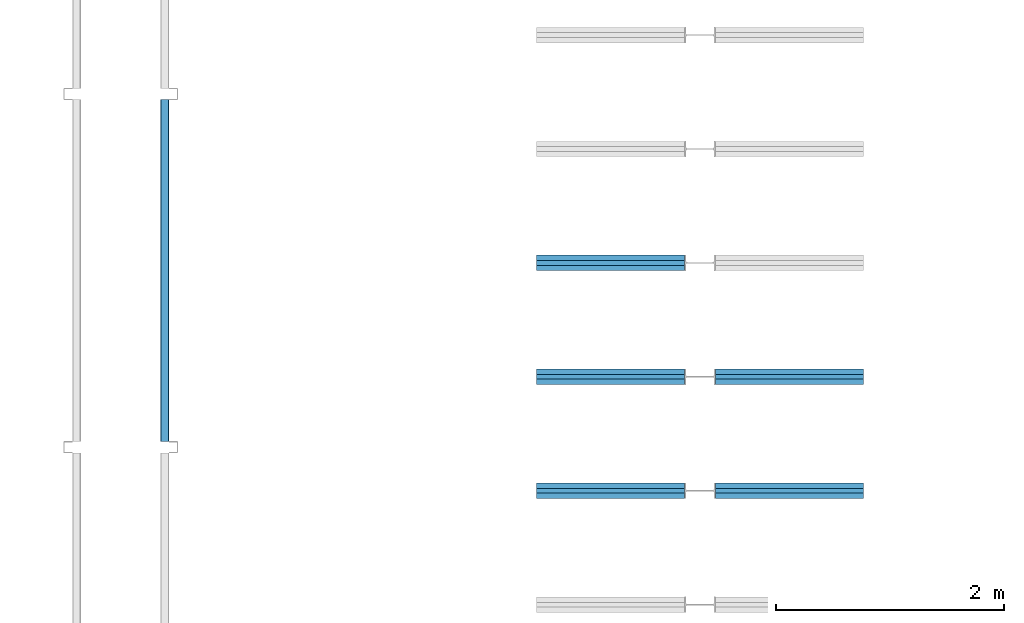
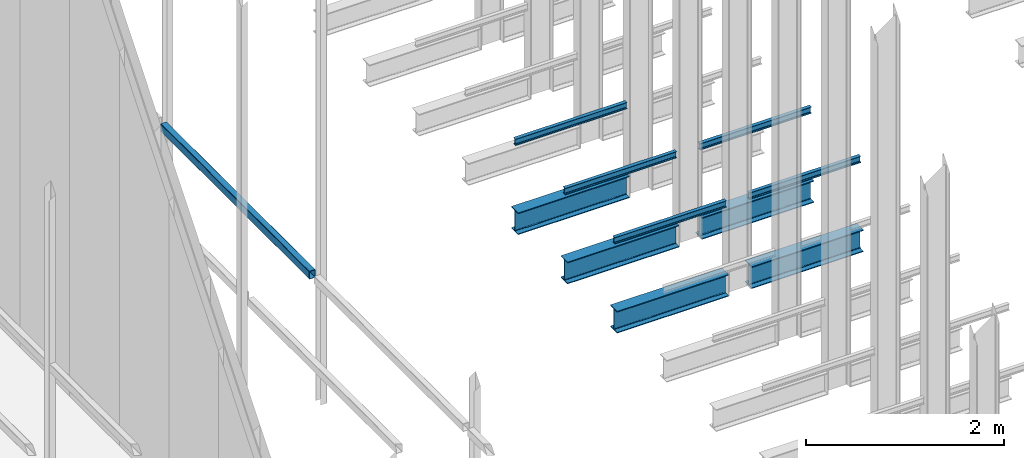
# One storey, part 167 of 302: 11 beams.
"""IFC2X3 building model written with IfcOpenShell, lengths in metres."""

from ifc_helpers import new_model, entity, si_unit, converted_unit, derived_unit, direction, frame, frame_2d, origin, place, context, subcontext, project, spatial, polyline, circle_curve, parameter, trimmed, segment, composite_curve, i_section, outline, extrude, material, type_object, element, save


model = new_model("IFC2X3")

# Units and contexts
model_context = context("Model", 3, precision=1e-05, world=origin(), true_north=direction((6.12303176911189e-17, 1.0)))
body_context = subcontext(model_context, "Body", "Model", "MODEL_VIEW")
ifc_project = project(units=[si_unit("LENGTHUNIT", "METRE"), si_unit("AREAUNIT", "SQUARE_METRE"), si_unit("VOLUMEUNIT", "CUBIC_METRE"), converted_unit("PLANEANGLEUNIT", "DEGREE", entity("IfcRatioMeasure", 0.0174532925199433), si_unit("PLANEANGLEUNIT", "RADIAN"), dimensions=[0, 0, 0, 0, 0, 0, 0]), si_unit("MASSUNIT", "GRAM", prefix="KILO"), derived_unit("MASSDENSITYUNIT", [(si_unit("MASSUNIT", "GRAM", prefix="KILO"), 1), (si_unit("LENGTHUNIT", "METRE"), -3)]), derived_unit("MOMENTOFINERTIAUNIT", [(si_unit("LENGTHUNIT", "METRE"), 4)]), si_unit("TIMEUNIT", "SECOND"), si_unit("FREQUENCYUNIT", "HERTZ"), si_unit("THERMODYNAMICTEMPERATUREUNIT", "DEGREE_CELSIUS"), derived_unit("THERMALTRANSMITTANCEUNIT", [(si_unit("MASSUNIT", "GRAM", prefix="KILO"), 1), (si_unit("THERMODYNAMICTEMPERATUREUNIT", "KELVIN"), -1), (si_unit("TIMEUNIT", "SECOND"), -3)]), derived_unit("VOLUMETRICFLOWRATEUNIT", [(si_unit("LENGTHUNIT", "METRE"), 3), (si_unit("TIMEUNIT", "SECOND"), -1)]), si_unit("ELECTRICCURRENTUNIT", "AMPERE"), si_unit("ELECTRICVOLTAGEUNIT", "VOLT"), si_unit("POWERUNIT", "WATT"), si_unit("FORCEUNIT", "NEWTON", prefix="KILO"), si_unit("ILLUMINANCEUNIT", "LUX"), si_unit("LUMINOUSFLUXUNIT", "LUMEN"), si_unit("LUMINOUSINTENSITYUNIT", "CANDELA"), derived_unit("USERDEFINED", [(si_unit("MASSUNIT", "GRAM", prefix="KILO"), -1), (si_unit("LENGTHUNIT", "METRE"), -2), (si_unit("TIMEUNIT", "SECOND"), 3), (si_unit("LUMINOUSFLUXUNIT", "LUMEN"), 1)]), derived_unit("LINEARVELOCITYUNIT", [(si_unit("LENGTHUNIT", "METRE"), 1), (si_unit("TIMEUNIT", "SECOND"), -1)]), si_unit("PRESSUREUNIT", "PASCAL"), derived_unit("USERDEFINED", [(si_unit("LENGTHUNIT", "METRE"), -2), (si_unit("MASSUNIT", "GRAM", prefix="KILO"), 1), (si_unit("TIMEUNIT", "SECOND"), -2)]), derived_unit("LINEARFORCEUNIT", [(si_unit("MASSUNIT", "GRAM", prefix="KILO"), 1), (si_unit("LENGTHUNIT", "METRE"), 1), (si_unit("TIMEUNIT", "SECOND"), -2), (si_unit("LENGTHUNIT", "METRE"), -1)]), derived_unit("PLANARFORCEUNIT", [(si_unit("MASSUNIT", "GRAM", prefix="KILO"), 1), (si_unit("LENGTHUNIT", "METRE"), 1), (si_unit("TIMEUNIT", "SECOND"), -2), (si_unit("LENGTHUNIT", "METRE"), -2)])], contexts=[model_context])

# Site, building, storey
site_placement = place(None, origin())
site = spatial("IfcSite", under=ifc_project, at=site_placement, Name="Default", CompositionType="ELEMENT")
building_placement = place(site_placement, origin())
building = spatial("IfcBuilding", under=site, at=building_placement, CompositionType="ELEMENT")
storey_placement = place(building_placement, frame((0.0, 0.0, -1.3)))
storey = spatial("IfcBuildingStorey", under=building, at=storey_placement, Name="00_EG", CompositionType="ELEMENT", Elevation=-1.3)

# Beams
ifc_material_1 = material(Name="Metall - Baustahl S235 blau")
beam_type_1 = type_object("IfcBeamType", Name="RHS Träger (EN 10219-2):RHS 100 x 75 x 5", PredefinedType="NOTDEFINED")
beam_1_placement = place(storey_placement, frame((-175.305111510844, 36.448088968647, 2.885), z_axis=(0.0, 0.0, 1.0), x_axis=(0.0, 1.0, 0.0)))
element("IfcBeam", 1, at=beam_1_placement, inside=storey, type_object=beam_type_1, material=ifc_material_1, Name="RHS Träger (EN 10219-2):RHS 100 x 75 x 5", ObjectType="RHS Träger (EN 10219-2):RHS 100 x 75 x 5", context=body_context, shape_type="SweptSolid", body=[
    extrude(outline(composite_curve([segment(trimmed(circle_curve(frame_2d((-0.0274999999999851, -0.0400000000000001), x_axis=(1.0, 0.0)), 0.01), [parameter(180.0)], [parameter(270.0)], True, "PARAMETER"), True, "CONTINUOUS"), segment(polyline([(-0.0274999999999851, -0.05), (0.0274999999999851, -0.05)]), True, "CONTINUOUS"), segment(trimmed(circle_curve(frame_2d((0.0274999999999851, -0.0400000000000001), x_axis=(1.0, 0.0)), 0.01), [parameter(270.0)], [parameter(5.08888749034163e-14)], True, "PARAMETER"), True, "CONTINUOUS"), segment(polyline([(0.0375000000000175, -0.0399999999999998), (0.0375000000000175, 0.0400000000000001)]), True, "CONTINUOUS"), segment(trimmed(circle_curve(frame_2d((0.0274999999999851, 0.0399999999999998), x_axis=(1.0, 0.0)), 0.01), [parameter(360.0)], [parameter(89.9999999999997)], True, "PARAMETER"), True, "CONTINUOUS"), segment(polyline([(0.0274999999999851, 0.05), (-0.0274999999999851, 0.05)]), True, "CONTINUOUS"), segment(trimmed(circle_curve(frame_2d((-0.0274999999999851, 0.0399999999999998), x_axis=(1.0, 0.0)), 0.01), [parameter(90.0000000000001)], [parameter(180.0)], True, "PARAMETER"), True, "CONTINUOUS"), segment(polyline([(-0.0374999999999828, 0.0400000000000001), (-0.0374999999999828, -0.0399999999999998)]), True, "CONTINUOUS")], self_intersect=False), holes=[composite_curve([segment(polyline([(0.0274999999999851, -0.0450000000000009), (-0.0274999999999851, -0.0450000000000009)]), True, "CONTINUOUS"), segment(trimmed(circle_curve(frame_2d((-0.0274999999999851, -0.0400000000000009), x_axis=(1.0, 0.0)), 0.005), [parameter(180.0)], [parameter(270.0)], True, "PARAMETER"), False, "CONTINUOUS"), segment(polyline([(-0.0325000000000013, -0.0400000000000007), (-0.0325000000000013, 0.0399999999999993)]), True, "CONTINUOUS"), segment(trimmed(circle_curve(frame_2d((-0.0274999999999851, 0.039999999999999), x_axis=(1.0, 0.0)), 0.005), [parameter(90.0000000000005)], [parameter(180.0)], True, "PARAMETER"), False, "CONTINUOUS"), segment(polyline([(-0.0274999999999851, 0.0449999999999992), (0.0274999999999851, 0.0449999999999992)]), True, "CONTINUOUS"), segment(trimmed(circle_curve(frame_2d((0.0274999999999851, 0.039999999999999), x_axis=(1.0, 0.0)), 0.005), [parameter(0.0)], [parameter(90.0000000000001)], True, "PARAMETER"), False, "CONTINUOUS"), segment(polyline([(0.0325000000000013, 0.0399999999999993), (0.0325000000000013, -0.0400000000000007)]), True, "CONTINUOUS"), segment(trimmed(circle_curve(frame_2d((0.0274999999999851, -0.0400000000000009), x_axis=(1.0, 0.0)), 0.005), [parameter(270.0)], [parameter(4.07110999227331e-13)], True, "PARAMETER"), False, "CONTINUOUS")], self_intersect=False)]), frame((9.99999999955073e-05, 0.0375000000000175, -0.0500000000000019), z_axis=(1.0, 0.0, 0.0), x_axis=(0.0, -1.0, 0.0)), (0.0, 0.0, 1.0), 2.9998),
])
ifc_material_2 = material(Name="Metall - Baustahl S235")
beam_type_2 = type_object("IfcBeamType", Name="IPN Träger:IPN 80", PredefinedType="NOTDEFINED")
beam_2_placement = place(storey_placement, frame((-170.780111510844, 38.036588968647, 2.42), z_axis=(0.0, 0.0, 1.0), x_axis=(-1.0, 0.0, 0.0)))
element("IfcBeam", 2, at=beam_2_placement, inside=storey, type_object=beam_type_2, material=ifc_material_2, Name="IPN Träger:IPN 80", ObjectType="IPN Träger:IPN 80", context=body_context, shape_type="SweptSolid", body=[
    extrude(outline(composite_curve([segment(polyline([(0.0375704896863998, -0.0210000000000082), (0.0399999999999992, -0.0210000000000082)]), True, "CONTINUOUS"), segment(polyline([(0.0399999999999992, -0.0210000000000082), (0.0399999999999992, 0.0209999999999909)]), True, "CONTINUOUS"), segment(polyline([(0.039999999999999, 0.0209999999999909), (0.037570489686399, 0.0209999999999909)]), True, "CONTINUOUS"), segment(trimmed(circle_curve(frame_2d((0.037570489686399, 0.0186999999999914), x_axis=(0.0, 1.0)), 0.00230000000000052), [parameter(0.0)], [parameter(82.0299999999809)], True, "PARAMETER"), True, "CONTINUOUS"), segment(polyline([(0.0352927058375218, 0.019018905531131), (0.0333732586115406, 0.00530924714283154)]), True, "CONTINUOUS"), segment(trimmed(circle_curve(frame_2d((0.0295109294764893, 0.00584999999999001), x_axis=(0.990340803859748, -0.138654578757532)), 0.00389999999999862), [parameter(277.969999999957)], [parameter(0.0)], True, "PARAMETER"), False, "CONTINUOUS"), segment(polyline([(0.0295109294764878, 0.00194999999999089), (-0.0295109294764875, 0.00194999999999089)]), True, "CONTINUOUS"), segment(trimmed(circle_curve(frame_2d((-0.029510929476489, 0.00584999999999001), x_axis=(0.0, -1.0)), 0.00389999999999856), [parameter(277.969999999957)], [parameter(0.0)], True, "PARAMETER"), False, "CONTINUOUS"), segment(polyline([(-0.0333732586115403, 0.00530924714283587), (-0.0352927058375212, 0.0190189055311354)]), True, "CONTINUOUS"), segment(trimmed(circle_curve(frame_2d((-0.0375704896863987, 0.0186999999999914), x_axis=(0.990340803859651, 0.138654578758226)), 0.00230000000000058), [parameter(0.0)], [parameter(82.029999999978)], True, "PARAMETER"), True, "CONTINUOUS"), segment(polyline([(-0.0375704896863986, 0.0209999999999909), (-0.0400000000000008, 0.0209999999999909)]), True, "CONTINUOUS"), segment(polyline([(-0.0400000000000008, 0.0209999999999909), (-0.0400000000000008, -0.0210000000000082)]), True, "CONTINUOUS"), segment(polyline([(-0.0400000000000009, -0.0210000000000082), (-0.037570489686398, -0.0210000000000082)]), True, "CONTINUOUS"), segment(trimmed(circle_curve(frame_2d((-0.0375704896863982, -0.0187000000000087), x_axis=(0.0, -1.0)), 0.00230000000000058), [parameter(0.0)], [parameter(82.029999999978)], True, "PARAMETER"), True, "CONTINUOUS"), segment(polyline([(-0.0352927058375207, -0.0190189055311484), (-0.0333732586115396, -0.0053092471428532)]), True, "CONTINUOUS"), segment(trimmed(circle_curve(frame_2d((-0.0295109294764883, -0.00585000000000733), x_axis=(-0.990340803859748, 0.138654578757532)), 0.00389999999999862), [parameter(277.969999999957)], [parameter(0.0)], True, "PARAMETER"), False, "CONTINUOUS"), segment(polyline([(-0.0295109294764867, -0.00195000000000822), (0.0295109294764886, -0.00195000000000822)]), True, "CONTINUOUS"), segment(trimmed(circle_curve(frame_2d((0.0295109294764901, -0.00585000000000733), x_axis=(0.0, 1.0)), 0.00389999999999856), [parameter(277.969999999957)], [parameter(0.0)], True, "PARAMETER"), False, "CONTINUOUS"), segment(polyline([(0.0333732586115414, -0.0053092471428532), (0.0352927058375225, -0.0190189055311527)]), True, "CONTINUOUS"), segment(trimmed(circle_curve(frame_2d((0.0375704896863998, -0.0187000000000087), x_axis=(-0.990340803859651, -0.138654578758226)), 0.00230000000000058), [parameter(0.0)], [parameter(82.029999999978)], True, "PARAMETER"), True, "CONTINUOUS")], self_intersect=False)), frame((0.000100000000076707, 0.0210000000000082, -0.0400000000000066), z_axis=(1.0, 0.0, 0.0), x_axis=(0.0, 0.0, -1.0)), (0.0, 0.0, 1.0), 1.29990000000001),
])
beam_3_placement = place(storey_placement, frame((-170.510111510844, 36.994588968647, 2.42)))
element("IfcBeam", 3, at=beam_3_placement, inside=storey, type_object=beam_type_2, material=ifc_material_2, Name="IPN Träger:IPN 80", ObjectType="IPN Träger:IPN 80", context=body_context, shape_type="SweptSolid", body=[
    extrude(outline(composite_curve([segment(polyline([(0.0375704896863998, -0.0210000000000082), (0.0399999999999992, -0.0210000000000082)]), True, "CONTINUOUS"), segment(polyline([(0.0399999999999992, -0.0210000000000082), (0.0399999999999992, 0.0209999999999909)]), True, "CONTINUOUS"), segment(polyline([(0.039999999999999, 0.0209999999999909), (0.037570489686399, 0.0209999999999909)]), True, "CONTINUOUS"), segment(trimmed(circle_curve(frame_2d((0.037570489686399, 0.0186999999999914), x_axis=(0.0, 1.0)), 0.00230000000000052), [parameter(0.0)], [parameter(82.0299999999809)], True, "PARAMETER"), True, "CONTINUOUS"), segment(polyline([(0.0352927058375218, 0.019018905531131), (0.0333732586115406, 0.00530924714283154)]), True, "CONTINUOUS"), segment(trimmed(circle_curve(frame_2d((0.0295109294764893, 0.00584999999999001), x_axis=(0.990340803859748, -0.138654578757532)), 0.00389999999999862), [parameter(277.969999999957)], [parameter(0.0)], True, "PARAMETER"), False, "CONTINUOUS"), segment(polyline([(0.0295109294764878, 0.00194999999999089), (-0.0295109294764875, 0.00194999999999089)]), True, "CONTINUOUS"), segment(trimmed(circle_curve(frame_2d((-0.029510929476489, 0.00584999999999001), x_axis=(0.0, -1.0)), 0.00389999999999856), [parameter(277.969999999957)], [parameter(0.0)], True, "PARAMETER"), False, "CONTINUOUS"), segment(polyline([(-0.0333732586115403, 0.00530924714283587), (-0.0352927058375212, 0.0190189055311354)]), True, "CONTINUOUS"), segment(trimmed(circle_curve(frame_2d((-0.0375704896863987, 0.0186999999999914), x_axis=(0.990340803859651, 0.138654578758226)), 0.00230000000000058), [parameter(0.0)], [parameter(82.029999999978)], True, "PARAMETER"), True, "CONTINUOUS"), segment(polyline([(-0.0375704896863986, 0.0209999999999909), (-0.0400000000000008, 0.0209999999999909)]), True, "CONTINUOUS"), segment(polyline([(-0.0400000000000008, 0.0209999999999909), (-0.0400000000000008, -0.0210000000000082)]), True, "CONTINUOUS"), segment(polyline([(-0.0400000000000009, -0.0210000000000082), (-0.037570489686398, -0.0210000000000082)]), True, "CONTINUOUS"), segment(trimmed(circle_curve(frame_2d((-0.0375704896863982, -0.0187000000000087), x_axis=(0.0, -1.0)), 0.00230000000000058), [parameter(0.0)], [parameter(82.029999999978)], True, "PARAMETER"), True, "CONTINUOUS"), segment(polyline([(-0.0352927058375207, -0.0190189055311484), (-0.0333732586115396, -0.0053092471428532)]), True, "CONTINUOUS"), segment(trimmed(circle_curve(frame_2d((-0.0295109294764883, -0.00585000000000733), x_axis=(-0.990340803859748, 0.138654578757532)), 0.00389999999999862), [parameter(277.969999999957)], [parameter(0.0)], True, "PARAMETER"), False, "CONTINUOUS"), segment(polyline([(-0.0295109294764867, -0.00195000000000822), (0.0295109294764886, -0.00195000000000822)]), True, "CONTINUOUS"), segment(trimmed(circle_curve(frame_2d((0.0295109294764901, -0.00585000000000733), x_axis=(0.0, 1.0)), 0.00389999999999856), [parameter(277.969999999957)], [parameter(0.0)], True, "PARAMETER"), False, "CONTINUOUS"), segment(polyline([(0.0333732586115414, -0.0053092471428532), (0.0352927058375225, -0.0190189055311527)]), True, "CONTINUOUS"), segment(trimmed(circle_curve(frame_2d((0.0375704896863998, -0.0187000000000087), x_axis=(-0.990340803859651, -0.138654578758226)), 0.00230000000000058), [parameter(0.0)], [parameter(82.029999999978)], True, "PARAMETER"), True, "CONTINUOUS")], self_intersect=False)), frame((0.000100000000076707, 0.0210000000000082, -0.0400000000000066), z_axis=(1.0, 0.0, 0.0), x_axis=(0.0, 0.0, -1.0)), (0.0, 0.0, 1.0), 1.29990000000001),
])
beam_4_placement = place(storey_placement, frame((-170.780111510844, 37.036588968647, 2.42), z_axis=(0.0, 0.0, 1.0), x_axis=(-1.0, 0.0, 0.0)))
element("IfcBeam", 4, at=beam_4_placement, inside=storey, type_object=beam_type_2, material=ifc_material_2, Name="IPN Träger:IPN 80", ObjectType="IPN Träger:IPN 80", context=body_context, shape_type="SweptSolid", body=[
    extrude(outline(composite_curve([segment(polyline([(0.0375704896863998, -0.0210000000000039), (0.0399999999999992, -0.0210000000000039)]), True, "CONTINUOUS"), segment(polyline([(0.0399999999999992, -0.0210000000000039), (0.0399999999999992, 0.0209999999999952)]), True, "CONTINUOUS"), segment(polyline([(0.039999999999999, 0.0209999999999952), (0.037570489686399, 0.0209999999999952)]), True, "CONTINUOUS"), segment(trimmed(circle_curve(frame_2d((0.037570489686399, 0.0186999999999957), x_axis=(0.0, 1.0)), 0.00230000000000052), [parameter(0.0)], [parameter(82.0299999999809)], True, "PARAMETER"), True, "CONTINUOUS"), segment(polyline([(0.0352927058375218, 0.0190189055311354), (0.0333732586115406, 0.00530924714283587)]), True, "CONTINUOUS"), segment(trimmed(circle_curve(frame_2d((0.0295109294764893, 0.00584999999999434), x_axis=(0.990340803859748, -0.138654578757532)), 0.00389999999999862), [parameter(277.969999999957)], [parameter(0.0)], True, "PARAMETER"), False, "CONTINUOUS"), segment(polyline([(0.0295109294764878, 0.00194999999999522), (-0.0295109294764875, 0.00194999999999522)]), True, "CONTINUOUS"), segment(trimmed(circle_curve(frame_2d((-0.029510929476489, 0.00584999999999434), x_axis=(0.0, -1.0)), 0.00389999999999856), [parameter(277.969999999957)], [parameter(0.0)], True, "PARAMETER"), False, "CONTINUOUS"), segment(polyline([(-0.0333732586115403, 0.0053092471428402), (-0.0352927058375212, 0.0190189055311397)]), True, "CONTINUOUS"), segment(trimmed(circle_curve(frame_2d((-0.0375704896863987, 0.0186999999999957), x_axis=(0.990340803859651, 0.138654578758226)), 0.00230000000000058), [parameter(0.0)], [parameter(82.029999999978)], True, "PARAMETER"), True, "CONTINUOUS"), segment(polyline([(-0.0375704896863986, 0.0209999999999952), (-0.0400000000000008, 0.0209999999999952)]), True, "CONTINUOUS"), segment(polyline([(-0.0400000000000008, 0.0209999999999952), (-0.0400000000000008, -0.0210000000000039)]), True, "CONTINUOUS"), segment(polyline([(-0.0400000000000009, -0.0210000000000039), (-0.037570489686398, -0.0210000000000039)]), True, "CONTINUOUS"), segment(trimmed(circle_curve(frame_2d((-0.0375704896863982, -0.0187000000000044), x_axis=(0.0, -1.0)), 0.00230000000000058), [parameter(0.0)], [parameter(82.029999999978)], True, "PARAMETER"), True, "CONTINUOUS"), segment(polyline([(-0.0352927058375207, -0.019018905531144), (-0.0333732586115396, -0.00530924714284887)]), True, "CONTINUOUS"), segment(trimmed(circle_curve(frame_2d((-0.0295109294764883, -0.005850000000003), x_axis=(-0.990340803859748, 0.138654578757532)), 0.00389999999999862), [parameter(277.969999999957)], [parameter(0.0)], True, "PARAMETER"), False, "CONTINUOUS"), segment(polyline([(-0.0295109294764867, -0.00195000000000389), (0.0295109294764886, -0.00195000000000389)]), True, "CONTINUOUS"), segment(trimmed(circle_curve(frame_2d((0.0295109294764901, -0.005850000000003), x_axis=(0.0, 1.0)), 0.00389999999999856), [parameter(277.969999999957)], [parameter(0.0)], True, "PARAMETER"), False, "CONTINUOUS"), segment(polyline([(0.0333732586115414, -0.00530924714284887), (0.0352927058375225, -0.0190189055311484)]), True, "CONTINUOUS"), segment(trimmed(circle_curve(frame_2d((0.0375704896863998, -0.0187000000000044), x_axis=(-0.990340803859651, -0.138654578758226)), 0.00230000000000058), [parameter(0.0)], [parameter(82.029999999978)], True, "PARAMETER"), True, "CONTINUOUS")], self_intersect=False)), frame((0.000100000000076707, 0.0210000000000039, -0.0400000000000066), z_axis=(1.0, 0.0, 0.0), x_axis=(0.0, 0.0, -1.0)), (0.0, 0.0, 1.0), 1.29990000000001),
])
beam_5_placement = place(storey_placement, frame((-170.510111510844, 35.994588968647, 2.42)))
element("IfcBeam", 5, at=beam_5_placement, inside=storey, type_object=beam_type_2, material=ifc_material_2, Name="IPN Träger:IPN 80", ObjectType="IPN Träger:IPN 80", context=body_context, shape_type="SweptSolid", body=[
    extrude(outline(composite_curve([segment(polyline([(0.0375704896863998, -0.0209999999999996), (0.0399999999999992, -0.0209999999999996)]), True, "CONTINUOUS"), segment(polyline([(0.0399999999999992, -0.0209999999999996), (0.0399999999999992, 0.0209999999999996)]), True, "CONTINUOUS"), segment(polyline([(0.039999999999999, 0.0209999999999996), (0.037570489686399, 0.0209999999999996)]), True, "CONTINUOUS"), segment(trimmed(circle_curve(frame_2d((0.037570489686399, 0.0187000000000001), x_axis=(0.0, 1.0)), 0.00230000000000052), [parameter(0.0)], [parameter(82.0299999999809)], True, "PARAMETER"), True, "CONTINUOUS"), segment(polyline([(0.0352927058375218, 0.0190189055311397), (0.0333732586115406, 0.00530924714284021)]), True, "CONTINUOUS"), segment(trimmed(circle_curve(frame_2d((0.0295109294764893, 0.00584999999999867), x_axis=(0.990340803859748, -0.138654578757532)), 0.00389999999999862), [parameter(277.969999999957)], [parameter(0.0)], True, "PARAMETER"), False, "CONTINUOUS"), segment(polyline([(0.0295109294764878, 0.00194999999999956), (-0.0295109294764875, 0.00194999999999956)]), True, "CONTINUOUS"), segment(trimmed(circle_curve(frame_2d((-0.029510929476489, 0.00584999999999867), x_axis=(0.0, -1.0)), 0.00389999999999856), [parameter(277.969999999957)], [parameter(0.0)], True, "PARAMETER"), False, "CONTINUOUS"), segment(polyline([(-0.0333732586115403, 0.00530924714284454), (-0.0352927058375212, 0.019018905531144)]), True, "CONTINUOUS"), segment(trimmed(circle_curve(frame_2d((-0.0375704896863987, 0.0187000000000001), x_axis=(0.990340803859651, 0.138654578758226)), 0.00230000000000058), [parameter(0.0)], [parameter(82.029999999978)], True, "PARAMETER"), True, "CONTINUOUS"), segment(polyline([(-0.0375704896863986, 0.0209999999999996), (-0.0400000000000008, 0.0209999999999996)]), True, "CONTINUOUS"), segment(polyline([(-0.0400000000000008, 0.0209999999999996), (-0.0400000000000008, -0.0209999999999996)]), True, "CONTINUOUS"), segment(polyline([(-0.0400000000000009, -0.0209999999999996), (-0.037570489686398, -0.0209999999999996)]), True, "CONTINUOUS"), segment(trimmed(circle_curve(frame_2d((-0.0375704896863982, -0.0187000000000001), x_axis=(0.0, -1.0)), 0.00230000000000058), [parameter(0.0)], [parameter(82.029999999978)], True, "PARAMETER"), True, "CONTINUOUS"), segment(polyline([(-0.0352927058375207, -0.0190189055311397), (-0.0333732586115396, -0.00530924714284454)]), True, "CONTINUOUS"), segment(trimmed(circle_curve(frame_2d((-0.0295109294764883, -0.00584999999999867), x_axis=(-0.990340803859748, 0.138654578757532)), 0.00389999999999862), [parameter(277.969999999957)], [parameter(0.0)], True, "PARAMETER"), False, "CONTINUOUS"), segment(polyline([(-0.0295109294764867, -0.00194999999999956), (0.0295109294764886, -0.00194999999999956)]), True, "CONTINUOUS"), segment(trimmed(circle_curve(frame_2d((0.0295109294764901, -0.00584999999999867), x_axis=(0.0, 1.0)), 0.00389999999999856), [parameter(277.969999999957)], [parameter(0.0)], True, "PARAMETER"), False, "CONTINUOUS"), segment(polyline([(0.0333732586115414, -0.00530924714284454), (0.0352927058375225, -0.019018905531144)]), True, "CONTINUOUS"), segment(trimmed(circle_curve(frame_2d((0.0375704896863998, -0.0187000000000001), x_axis=(-0.990340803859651, -0.138654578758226)), 0.00230000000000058), [parameter(0.0)], [parameter(82.029999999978)], True, "PARAMETER"), True, "CONTINUOUS")], self_intersect=False)), frame((0.000100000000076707, 0.0209999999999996, -0.0400000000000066), z_axis=(1.0, 0.0, 0.0), x_axis=(0.0, 0.0, -1.0)), (0.0, 0.0, 1.0), 1.29990000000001),
])
beam_6_placement = place(storey_placement, frame((-170.780111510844, 36.036588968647, 2.42), z_axis=(0.0, 0.0, 1.0), x_axis=(-1.0, 0.0, 0.0)))
element("IfcBeam", 6, at=beam_6_placement, inside=storey, type_object=beam_type_2, material=ifc_material_2, Name="IPN Träger:IPN 80", ObjectType="IPN Träger:IPN 80", context=body_context, shape_type="SweptSolid", body=[
    extrude(outline(composite_curve([segment(polyline([(0.0375704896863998, -0.0209999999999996), (0.0399999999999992, -0.0209999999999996)]), True, "CONTINUOUS"), segment(polyline([(0.0399999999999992, -0.0209999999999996), (0.0399999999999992, 0.0209999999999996)]), True, "CONTINUOUS"), segment(polyline([(0.039999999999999, 0.0209999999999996), (0.037570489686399, 0.0209999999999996)]), True, "CONTINUOUS"), segment(trimmed(circle_curve(frame_2d((0.037570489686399, 0.0187000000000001), x_axis=(0.0, 1.0)), 0.00230000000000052), [parameter(0.0)], [parameter(82.0299999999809)], True, "PARAMETER"), True, "CONTINUOUS"), segment(polyline([(0.0352927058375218, 0.0190189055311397), (0.0333732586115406, 0.00530924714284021)]), True, "CONTINUOUS"), segment(trimmed(circle_curve(frame_2d((0.0295109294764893, 0.00584999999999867), x_axis=(0.990340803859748, -0.138654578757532)), 0.00389999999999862), [parameter(277.969999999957)], [parameter(0.0)], True, "PARAMETER"), False, "CONTINUOUS"), segment(polyline([(0.0295109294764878, 0.00194999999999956), (-0.0295109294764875, 0.00194999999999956)]), True, "CONTINUOUS"), segment(trimmed(circle_curve(frame_2d((-0.029510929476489, 0.00584999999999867), x_axis=(0.0, -1.0)), 0.00389999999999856), [parameter(277.969999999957)], [parameter(0.0)], True, "PARAMETER"), False, "CONTINUOUS"), segment(polyline([(-0.0333732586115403, 0.00530924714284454), (-0.0352927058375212, 0.019018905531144)]), True, "CONTINUOUS"), segment(trimmed(circle_curve(frame_2d((-0.0375704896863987, 0.0187000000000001), x_axis=(0.990340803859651, 0.138654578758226)), 0.00230000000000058), [parameter(0.0)], [parameter(82.029999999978)], True, "PARAMETER"), True, "CONTINUOUS"), segment(polyline([(-0.0375704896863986, 0.0209999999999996), (-0.0400000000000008, 0.0209999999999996)]), True, "CONTINUOUS"), segment(polyline([(-0.0400000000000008, 0.0209999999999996), (-0.0400000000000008, -0.0209999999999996)]), True, "CONTINUOUS"), segment(polyline([(-0.0400000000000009, -0.0209999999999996), (-0.037570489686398, -0.0209999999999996)]), True, "CONTINUOUS"), segment(trimmed(circle_curve(frame_2d((-0.0375704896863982, -0.0187000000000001), x_axis=(0.0, -1.0)), 0.00230000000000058), [parameter(0.0)], [parameter(82.029999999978)], True, "PARAMETER"), True, "CONTINUOUS"), segment(polyline([(-0.0352927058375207, -0.0190189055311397), (-0.0333732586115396, -0.00530924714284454)]), True, "CONTINUOUS"), segment(trimmed(circle_curve(frame_2d((-0.0295109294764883, -0.00584999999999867), x_axis=(-0.990340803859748, 0.138654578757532)), 0.00389999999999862), [parameter(277.969999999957)], [parameter(0.0)], True, "PARAMETER"), False, "CONTINUOUS"), segment(polyline([(-0.0295109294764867, -0.00194999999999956), (0.0295109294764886, -0.00194999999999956)]), True, "CONTINUOUS"), segment(trimmed(circle_curve(frame_2d((0.0295109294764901, -0.00584999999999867), x_axis=(0.0, 1.0)), 0.00389999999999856), [parameter(277.969999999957)], [parameter(0.0)], True, "PARAMETER"), False, "CONTINUOUS"), segment(polyline([(0.0333732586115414, -0.00530924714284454), (0.0352927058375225, -0.019018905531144)]), True, "CONTINUOUS"), segment(trimmed(circle_curve(frame_2d((0.0375704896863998, -0.0187000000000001), x_axis=(-0.990340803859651, -0.138654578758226)), 0.00230000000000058), [parameter(0.0)], [parameter(82.029999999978)], True, "PARAMETER"), True, "CONTINUOUS")], self_intersect=False)), frame((0.000100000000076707, 0.0209999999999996, -0.0400000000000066), z_axis=(1.0, 0.0, 0.0), x_axis=(0.0, 0.0, -1.0)), (0.0, 0.0, 1.0), 1.29990000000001),
])
beam_type_3 = type_object("IfcBeamType", Name="IPE Träger:IPE 270", PredefinedType="NOTDEFINED")
beam_7_placement = place(storey_placement, frame((-170.780111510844, 36.083088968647, 1.54000000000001), z_axis=(0.0, 0.0, 1.0), x_axis=(-1.0, 0.0, 0.0)))
element("IfcBeam", 7, at=beam_7_placement, inside=storey, type_object=beam_type_3, material=ifc_material_2, Name="IPE Träger:IPE 270", ObjectType="IPE Träger:IPE 270", context=body_context, shape_type="SweptSolid", body=[
    extrude(i_section(OverallWidth=0.134999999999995, OverallDepth=0.27, WebThickness=0.00660000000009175, FlangeThickness=0.0102000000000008, FilletRadius=0.0150000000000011, at=frame_2d((5.96744875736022e-16, -6.49480469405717e-15), x_axis=(0.0, 1.0))), frame((0.000100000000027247, 0.0675000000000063, -0.135000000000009), z_axis=(1.0, 0.0, 0.0), x_axis=(0.0, 0.0, -1.0)), (0.0, 0.0, 1.0), 1.29990000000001),
])
beam_8_placement = place(storey_placement, frame((-170.510111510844, 36.083088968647, 1.54000000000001)))
element("IfcBeam", 8, at=beam_8_placement, inside=storey, type_object=beam_type_3, material=ifc_material_2, Name="IPE Träger:IPE 270", ObjectType="IPE Träger:IPE 270", context=body_context, shape_type="SweptSolid", body=[
    extrude(i_section(OverallWidth=0.134999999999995, OverallDepth=0.27, WebThickness=0.00660000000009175, FlangeThickness=0.0102000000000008, FilletRadius=0.0150000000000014, at=frame_2d((5.96744875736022e-16, 2.16493489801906e-15), x_axis=(0.0, 1.0))), frame((0.000100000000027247, -0.0674999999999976, -0.135000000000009), z_axis=(1.0, 0.0, 0.0), x_axis=(0.0, 0.0, -1.0)), (0.0, 0.0, 1.0), 1.29990000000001),
])
beam_9_placement = place(storey_placement, frame((-170.780111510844, 37.083088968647, 1.54000000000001), z_axis=(0.0, 0.0, 1.0), x_axis=(-1.0, 0.0, 0.0)))
element("IfcBeam", 9, at=beam_9_placement, inside=storey, type_object=beam_type_3, material=ifc_material_2, Name="IPE Träger:IPE 270", ObjectType="IPE Träger:IPE 270", context=body_context, shape_type="SweptSolid", body=[
    extrude(i_section(OverallWidth=0.134999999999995, OverallDepth=0.27, WebThickness=0.00660000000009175, FlangeThickness=0.0102000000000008, FilletRadius=0.0150000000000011, at=frame_2d((5.96744875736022e-16, -1.51545442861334e-14), x_axis=(0.0, 1.0))), frame((0.000100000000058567, 0.067500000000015, -0.135000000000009), z_axis=(1.0, 0.0, 0.0), x_axis=(0.0, 0.0, -1.0)), (0.0, 0.0, 1.0), 1.29990000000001),
])
beam_10_placement = place(storey_placement, frame((-170.510111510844, 37.083088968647, 1.54000000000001)))
element("IfcBeam", 10, at=beam_10_placement, inside=storey, type_object=beam_type_3, material=ifc_material_2, Name="IPE Träger:IPE 270", ObjectType="IPE Träger:IPE 270", context=body_context, shape_type="SweptSolid", body=[
    extrude(i_section(OverallWidth=0.134999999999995, OverallDepth=0.27, WebThickness=0.00660000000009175, FlangeThickness=0.0102000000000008, FilletRadius=0.0150000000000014, at=frame_2d((5.96744875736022e-16, 6.49480469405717e-15), x_axis=(0.0, 1.0))), frame((0.000100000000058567, -0.067500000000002, -0.135000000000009), z_axis=(1.0, 0.0, 0.0), x_axis=(0.0, 0.0, -1.0)), (0.0, 0.0, 1.0), 1.29990000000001),
])
beam_11_placement = place(storey_placement, frame((-170.780111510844, 38.083088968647, 1.54000000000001), z_axis=(0.0, 0.0, 1.0), x_axis=(-1.0, 0.0, 0.0)))
element("IfcBeam", 11, at=beam_11_placement, inside=storey, type_object=beam_type_3, material=ifc_material_2, Name="IPE Träger:IPE 270", ObjectType="IPE Träger:IPE 270", context=body_context, shape_type="SweptSolid", body=[
    extrude(i_section(OverallWidth=0.134999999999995, OverallDepth=0.27, WebThickness=0.00660000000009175, FlangeThickness=0.0102000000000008, FilletRadius=0.0150000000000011, at=frame_2d((5.96744875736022e-16, 2.16493489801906e-15), x_axis=(0.0, 1.0))), frame((0.000100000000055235, 0.0674999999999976, -0.135000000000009), z_axis=(1.0, 0.0, 0.0), x_axis=(0.0, 0.0, -1.0)), (0.0, 0.0, 1.0), 1.29990000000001),
])

save(model, "model.ifc")
